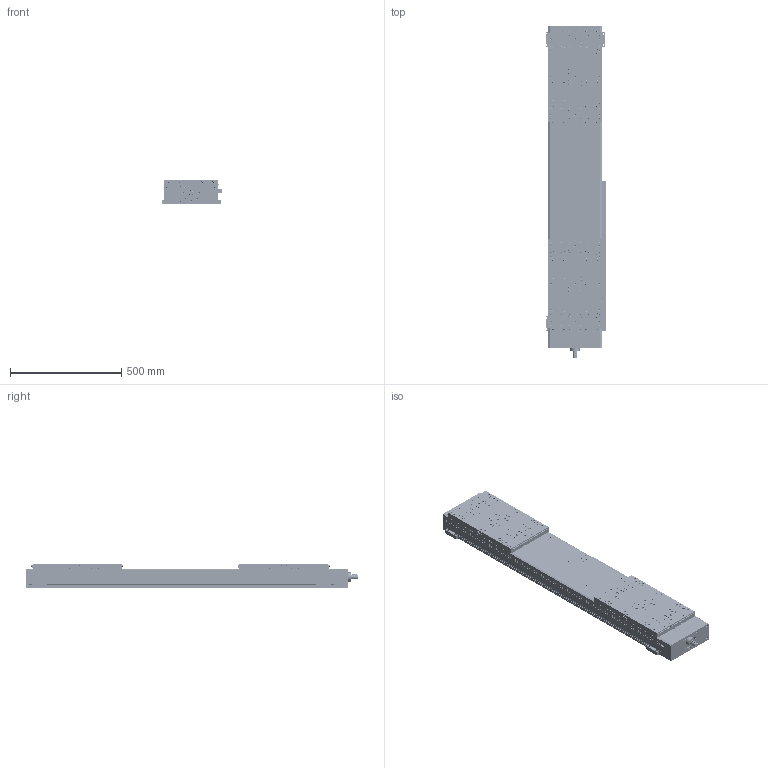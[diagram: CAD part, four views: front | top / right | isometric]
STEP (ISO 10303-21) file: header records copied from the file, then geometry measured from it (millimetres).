
FILE_DESCRIPTION(('Creo Elements/Direct Modeling STEP Export'),'2;1');
FILE_NAME('D240-C-SSS-RL-400-EN.stp','2025-01-13T14:27:46',(''),(''),'Creo Elements/Direct Modeling STEP processor for AP214 (Solid Model)','Creo Elements/Direct Modeling 20.1D 10-Oct-2020 (C) Parametric Technology GmbH','');
FILE_SCHEMA(('AUTOMOTIVE_DESIGN { 1 0 10303 214 1 1 1 1 }'));
Products named in the file (22): D240-C-SSS-GRUNDKOERPER-BLAU.PRT.01.01; D240-C-S-GRUNDKOERPER.ASM; DELTA-S-GRUNDKOERPER.ASM; D240-C-SSS-SCHLITTEN-400.PRT; D240-ABSTREIFER-BUERSTE-B-10583.PRT; M4X8_ISO7380-1_10252.PRT; D240-ABSTREIFER-BUERSTE-B-10504.PRT; D240-ABSTREIFER-BUERSTE-BLAU.ASM; D240-ABSTREIFER.ASM; D240-C-S-SCHLITTEN.ASM.02; DELTA-S-SCHLITTEN.ASM; BL10_17326.PRT; BL10-PAAR_17326.ASM; DELTA-BEFESTIGUNGSELEMENTE.ASM; EN-SCHALTFAHNE-10407.PRT; M4X6_ISO7380-1_10251.PRT; EN-SCHALTFAHNE-10407.ASM; EN-LEISTE.PRT; EN-SCHALTER.PRT; INDUKTIVE-ENDSCHALTER.ASM; DELTA-ENDSCHALTER.ASM; D240-C-SSS-RL-400-EN
Assembly tree (34 placements, depth 6):
  D240-C-SSS-RL-400-EN
    DELTA-ENDSCHALTER.ASM
      INDUKTIVE-ENDSCHALTER.ASM
        EN-SCHALTER.PRT  x3
        EN-LEISTE.PRT
      EN-SCHALTFAHNE-10407.ASM
        M4X6_ISO7380-1_10251.PRT  x2
        EN-SCHALTFAHNE-10407.PRT
    DELTA-BEFESTIGUNGSELEMENTE.ASM
      BL10-PAAR_17326.ASM  x2
        BL10_17326.PRT
    DELTA-S-SCHLITTEN.ASM
      D240-C-S-SCHLITTEN.ASM.02  x2
        D240-ABSTREIFER.ASM
          D240-ABSTREIFER-BUERSTE-BLAU.ASM
            M4X8_ISO7380-1_10252.PRT  x6
            D240-ABSTREIFER-BUERSTE-B-10504.PRT  x2
            D240-ABSTREIFER-BUERSTE-B-10583.PRT
        D240-C-SSS-SCHLITTEN-400.PRT
    DELTA-S-GRUNDKOERPER.ASM
      D240-C-S-GRUNDKOERPER.ASM
        D240-C-SSS-GRUNDKOERPER-BLAU.PRT.01.01
Bounding box: 274.5 x 1494 x 110 mm (x, y, z)
Volume: 33621899.8 mm3; surface area: 1812565 mm2
Topology: 50 solids, 50 shells, 9887 faces, 26316 edges, 17074 vertices
Faces by surface type: plane 7907, cylinder 1158, cone 702, sphere 68, torus 52
Entity records: 296550 total; most frequent: CARTESIAN_POINT 44108, ORIENTED_EDGE 43758, DIRECTION 38017, EDGE_CURVE 21879, VECTOR 20549, LINE 20549, VERTEX_POINT 14445, AXIS2_PLACEMENT_3D 8734
